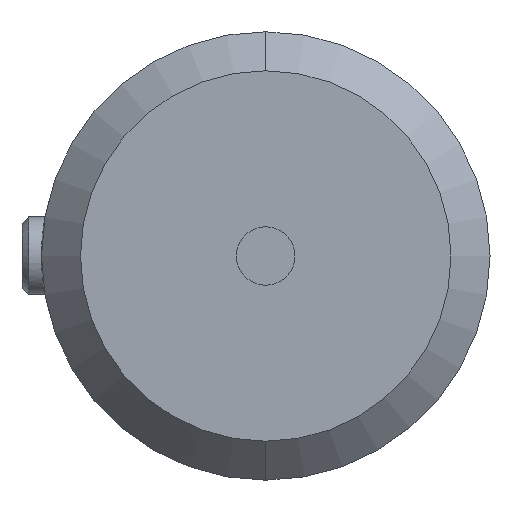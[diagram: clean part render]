
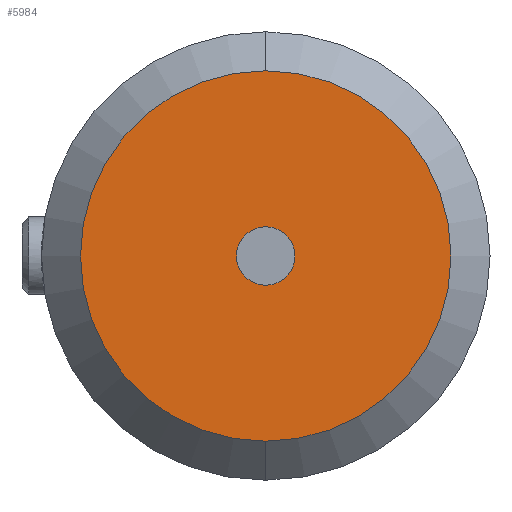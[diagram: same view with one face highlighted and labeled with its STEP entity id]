
A CAD part, left-side view. The second image highlights one B-rep face of the part: STEP entity #5984.
In plain terms, the highlighted planar face has unit normal (-1, 0, 0).
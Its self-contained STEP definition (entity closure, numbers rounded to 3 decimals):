
#471 = CIRCLE ( 'NONE', #3964, 9.5 ) ;
#686 = EDGE_LOOP ( 'NONE', ( #8708, #5663 ) ) ;
#797 = EDGE_CURVE ( 'NONE', #5753, #8906, #471, .T. ) ;
#804 = ORIENTED_EDGE ( 'NONE', *, *, #4332, .T. ) ;
#825 = CIRCLE ( 'NONE', #5653, 1.5 ) ;
#1139 = CARTESIAN_POINT ( 'NONE',  ( -21.134, 0., 0. ) ) ;
#1503 = DIRECTION ( 'NONE',  ( 1., 0., 0. ) ) ;
#1512 = AXIS2_PLACEMENT_3D ( 'NONE', #5700, #7059, #6920 ) ;
#1590 = DIRECTION ( 'NONE',  ( -1., 0., 0. ) ) ;
#1863 = FACE_OUTER_BOUND ( 'NONE', #8763, .T. ) ;
#2186 = CIRCLE ( 'NONE', #3061, 9.5 ) ;
#2880 = EDGE_CURVE ( 'NONE', #5531, #6625, #825, .T. ) ;
#3061 = AXIS2_PLACEMENT_3D ( 'NONE', #1139, #3978, #3924 ) ;
#3103 = DIRECTION ( 'NONE',  ( 0., 0., -1. ) ) ;
#3601 = DIRECTION ( 'NONE',  ( 0., 0., -1. ) ) ;
#3858 = CARTESIAN_POINT ( 'NONE',  ( -21.134, 0., -9.5 ) ) ;
#3924 = DIRECTION ( 'NONE',  ( 0., 0., -1. ) ) ;
#3964 = AXIS2_PLACEMENT_3D ( 'NONE', #4466, #1590, #3103 ) ;
#3978 = DIRECTION ( 'NONE',  ( -1., 0., 0. ) ) ;
#4332 = EDGE_CURVE ( 'NONE', #8906, #5753, #2186, .T. ) ;
#4466 = CARTESIAN_POINT ( 'NONE',  ( -21.134, 0., 0. ) ) ;
#4661 = FACE_BOUND ( 'NONE', #686, .T. ) ;
#5025 = CARTESIAN_POINT ( 'NONE',  ( -21.134, 0., 0. ) ) ;
#5531 = VERTEX_POINT ( 'NONE', #7426 ) ;
#5653 = AXIS2_PLACEMENT_3D ( 'NONE', #5911, #5951, #7223 ) ;
#5663 = ORIENTED_EDGE ( 'NONE', *, *, #7148, .T. ) ;
#5700 = CARTESIAN_POINT ( 'NONE',  ( -21.134, 0., 0. ) ) ;
#5753 = VERTEX_POINT ( 'NONE', #3858 ) ;
#5911 = CARTESIAN_POINT ( 'NONE',  ( -21.134, 0., 0. ) ) ;
#5951 = DIRECTION ( 'NONE',  ( 1., 0., 0. ) ) ;
#5984 = ADVANCED_FACE ( 'NONE', ( #1863, #4661 ), #7439, .F. ) ;
#6625 = VERTEX_POINT ( 'NONE', #7225 ) ;
#6741 = CIRCLE ( 'NONE', #1512, 1.5 ) ;
#6920 = DIRECTION ( 'NONE',  ( 0., 0., -1. ) ) ;
#7059 = DIRECTION ( 'NONE',  ( 1., 0., 0. ) ) ;
#7148 = EDGE_CURVE ( 'NONE', #6625, #5531, #6741, .T. ) ;
#7223 = DIRECTION ( 'NONE',  ( 0., 0., -1. ) ) ;
#7225 = CARTESIAN_POINT ( 'NONE',  ( -21.134, 0., 1.5 ) ) ;
#7426 = CARTESIAN_POINT ( 'NONE',  ( -21.134, 0., -1.5 ) ) ;
#7439 = PLANE ( 'NONE',  #7891 ) ;
#7659 = CARTESIAN_POINT ( 'NONE',  ( -21.134, 0., 9.5 ) ) ;
#7891 = AXIS2_PLACEMENT_3D ( 'NONE', #5025, #1503, #3601 ) ;
#8708 = ORIENTED_EDGE ( 'NONE', *, *, #2880, .T. ) ;
#8763 = EDGE_LOOP ( 'NONE', ( #9001, #804 ) ) ;
#8906 = VERTEX_POINT ( 'NONE', #7659 ) ;
#9001 = ORIENTED_EDGE ( 'NONE', *, *, #797, .T. ) ;
